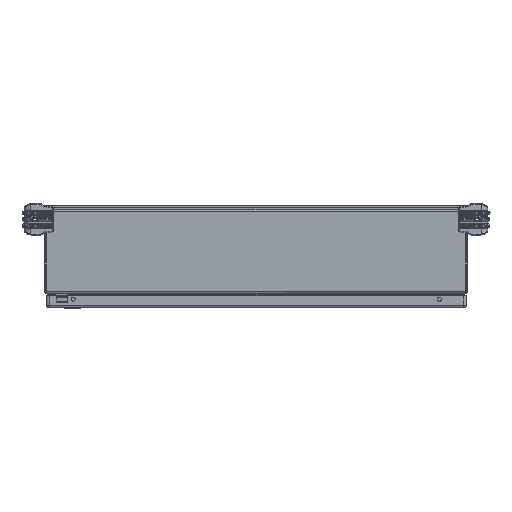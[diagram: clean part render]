
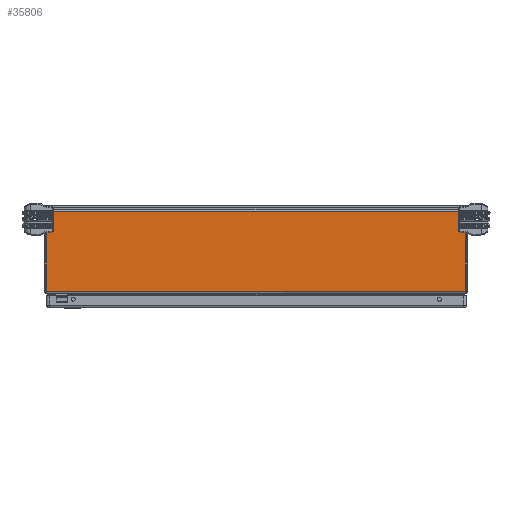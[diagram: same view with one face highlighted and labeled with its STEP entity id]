
A CAD part, front view. The second image highlights one B-rep face of the part: STEP entity #35806.
In plain terms, the highlighted planar face has unit normal (0, -1, 0).
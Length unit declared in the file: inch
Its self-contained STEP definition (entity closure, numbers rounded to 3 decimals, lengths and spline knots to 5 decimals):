
#4236 = ORIENTED_EDGE ( 'NONE', *, *, #23951, .T. ) ;
#4238 = ORIENTED_EDGE ( 'NONE', *, *, #23843, .T. ) ;
#4239 = ORIENTED_EDGE ( 'NONE', *, *, #23943, .F. ) ;
#4242 = ORIENTED_EDGE ( 'NONE', *, *, #23923, .T. ) ;
#11701 = CARTESIAN_POINT ( 'NONE',  ( -11.73293, -10.9255, 0.132 ) ) ;
#11714 = CARTESIAN_POINT ( 'NONE',  ( -11.73293, -10.9255, 4.564 ) ) ;
#11927 = CARTESIAN_POINT ( 'NONE',  ( 11.73293, -10.9255, 4.564 ) ) ;
#11945 = CARTESIAN_POINT ( 'NONE',  ( 11.73293, -10.9255, 0.132 ) ) ;
#23843 = EDGE_CURVE ( 'NONE', #54709, #54713, #66756, .T. ) ;
#23923 = EDGE_CURVE ( 'NONE', #54658, #54661, #66811, .T. ) ;
#23943 = EDGE_CURVE ( 'NONE', #54709, #54661, #66839, .T. ) ;
#23951 = EDGE_CURVE ( 'NONE', #54713, #54658, #66847, .T. ) ;
#25682 = DIRECTION ( 'NONE',  ( 0., 0., -1. ) ) ;
#25686 = DIRECTION ( 'NONE',  ( 0., -1., 0. ) ) ;
#25708 = PLANE ( 'NONE',  #41792 ) ;
#25743 = CARTESIAN_POINT ( 'NONE',  ( -129.932, -10.9255, 4.564 ) ) ;
#28849 = FACE_OUTER_BOUND ( 'NONE', #56894, .T. ) ;
#33497 = DIRECTION ( 'NONE',  ( 1., 0., 0. ) ) ;
#33502 = CARTESIAN_POINT ( 'NONE',  ( -129.932, -10.9255, 0.132 ) ) ;
#33527 = DIRECTION ( 'NONE',  ( 1., 0., 0. ) ) ;
#33529 = CARTESIAN_POINT ( 'NONE',  ( -129.932, -10.9255, 4.564 ) ) ;
#33643 = DIRECTION ( 'NONE',  ( 0., 0., 1. ) ) ;
#33648 = CARTESIAN_POINT ( 'NONE',  ( 11.73293, -10.9255, 4.564 ) ) ;
#35012 = DIRECTION ( 'NONE',  ( 0., 0., -1. ) ) ;
#35019 = CARTESIAN_POINT ( 'NONE',  ( -11.73293, -10.9255, 4.564 ) ) ;
#35806 = ADVANCED_FACE ( 'NONE', ( #28849 ), #25708, .T. ) ;
#41792 = AXIS2_PLACEMENT_3D ( 'NONE', #25743, #25686, #25682 ) ;
#54658 = VERTEX_POINT ( 'NONE', #11945 ) ;
#54661 = VERTEX_POINT ( 'NONE', #11927 ) ;
#54709 = VERTEX_POINT ( 'NONE', #11714 ) ;
#54713 = VERTEX_POINT ( 'NONE', #11701 ) ;
#56894 = EDGE_LOOP ( 'NONE', ( #4242, #4239, #4238, #4236 ) ) ;
#66748 = VECTOR ( 'NONE', #35012, 39.37008 ) ;
#66756 = LINE ( 'NONE', #35019, #66748 ) ;
#66811 = LINE ( 'NONE', #33648, #66821 ) ;
#66821 = VECTOR ( 'NONE', #33643, 39.37008 ) ;
#66839 = LINE ( 'NONE', #33529, #66840 ) ;
#66840 = VECTOR ( 'NONE', #33527, 39.37008 ) ;
#66847 = LINE ( 'NONE', #33502, #66848 ) ;
#66848 = VECTOR ( 'NONE', #33497, 39.37008 ) ;
